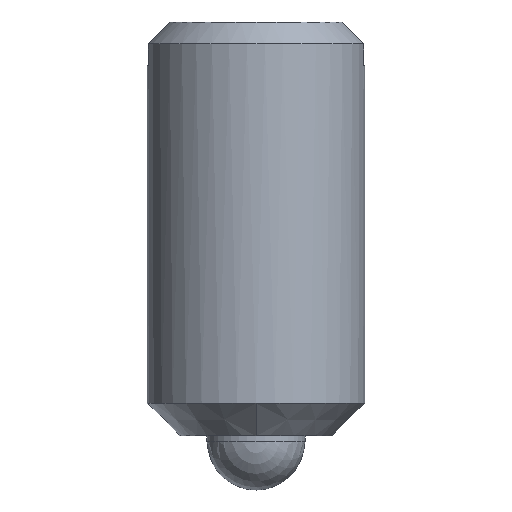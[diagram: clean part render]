
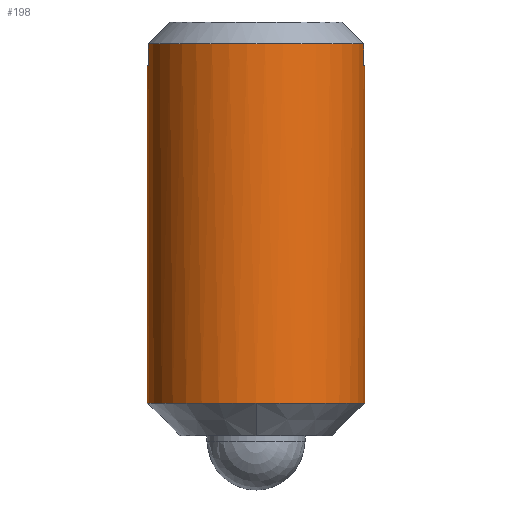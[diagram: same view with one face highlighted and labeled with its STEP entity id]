
A CAD part, front view. The second image highlights one B-rep face of the part: STEP entity #198.
In plain terms, the highlighted cylindrical face has radius 5 mm (diameter 10 mm), a partial arc.
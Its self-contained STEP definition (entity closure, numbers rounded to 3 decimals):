
#16 = EDGE_CURVE ( 'NONE', #564, #527, #353, .T. ) ;
#19 = EDGE_CURVE ( 'NONE', #507, #564, #183, .T. ) ;
#24 = DIRECTION ( 'NONE',  ( 0., 1., 0. ) ) ;
#36 = CARTESIAN_POINT ( 'NONE',  ( 5., 0., 4. ) ) ;
#46 = ORIENTED_EDGE ( 'NONE', *, *, #76, .T. ) ;
#57 = CARTESIAN_POINT ( 'NONE',  ( 0., 0., 19.5 ) ) ;
#67 = EDGE_LOOP ( 'NONE', ( #464, #106, #180, #269, #132, #304, #178, #137, #46 ) ) ;
#69 = CARTESIAN_POINT ( 'NONE',  ( -5., 0., 4. ) ) ;
#76 = EDGE_CURVE ( 'NONE', #377, #314, #362, .T. ) ;
#77 = DIRECTION ( 'NONE',  ( 0., 0., 1. ) ) ;
#92 = CARTESIAN_POINT ( 'NONE',  ( 0., 0., 20.5 ) ) ;
#98 = CARTESIAN_POINT ( 'NONE',  ( -5., 0., 19.5 ) ) ;
#106 = ORIENTED_EDGE ( 'NONE', *, *, #400, .F. ) ;
#107 = CARTESIAN_POINT ( 'NONE',  ( -4.936, -0.8, 20.5 ) ) ;
#111 = CARTESIAN_POINT ( 'NONE',  ( 0., 0., 4. ) ) ;
#127 = AXIS2_PLACEMENT_3D ( 'NONE', #473, #77, #439 ) ;
#132 = ORIENTED_EDGE ( 'NONE', *, *, #501, .F. ) ;
#137 = ORIENTED_EDGE ( 'NONE', *, *, #210, .T. ) ;
#139 = AXIS2_PLACEMENT_3D ( 'NONE', #92, #411, #568 ) ;
#150 = DIRECTION ( 'NONE',  ( 0., 0., 1. ) ) ;
#158 = CYLINDRICAL_SURFACE ( 'NONE', #466, 5. ) ;
#163 = VERTEX_POINT ( 'NONE', #98 ) ;
#168 = AXIS2_PLACEMENT_3D ( 'NONE', #57, #505, #525 ) ;
#178 = ORIENTED_EDGE ( 'NONE', *, *, #395, .T. ) ;
#180 = ORIENTED_EDGE ( 'NONE', *, *, #19, .T. ) ;
#183 = LINE ( 'NONE', #529, #321 ) ;
#191 = CIRCLE ( 'NONE', #380, 5. ) ;
#193 = DIRECTION ( 'NONE',  ( 0., 1., 0. ) ) ;
#198 = ADVANCED_FACE ( 'NONE', ( #290 ), #158, .T. ) ;
#199 = VERTEX_POINT ( 'NONE', #516 ) ;
#201 = DIRECTION ( 'NONE',  ( -1., 0., 0. ) ) ;
#210 = EDGE_CURVE ( 'NONE', #228, #377, #191, .T. ) ;
#213 = DIRECTION ( 'NONE',  ( 0., 0., -1. ) ) ;
#217 = VECTOR ( 'NONE', #352, 1000. ) ;
#222 = CARTESIAN_POINT ( 'NONE',  ( 0., -5., 4. ) ) ;
#228 = VERTEX_POINT ( 'NONE', #69 ) ;
#269 = ORIENTED_EDGE ( 'NONE', *, *, #16, .T. ) ;
#285 = CIRCLE ( 'NONE', #168, 5. ) ;
#288 = LINE ( 'NONE', #392, #310 ) ;
#290 = FACE_OUTER_BOUND ( 'NONE', #67, .T. ) ;
#293 = CARTESIAN_POINT ( 'NONE',  ( -4.936, -0.8, 19.5 ) ) ;
#298 = EDGE_CURVE ( 'NONE', #163, #566, #535, .T. ) ;
#304 = ORIENTED_EDGE ( 'NONE', *, *, #298, .F. ) ;
#310 = VECTOR ( 'NONE', #424, 1000. ) ;
#314 = VERTEX_POINT ( 'NONE', #36 ) ;
#319 = DIRECTION ( 'NONE',  ( 0., 0., 1. ) ) ;
#321 = VECTOR ( 'NONE', #319, 1000. ) ;
#333 = DIRECTION ( 'NONE',  ( 0., 0., 1. ) ) ;
#337 = CARTESIAN_POINT ( 'NONE',  ( 4.936, -0.8, 20.5 ) ) ;
#351 = CARTESIAN_POINT ( 'NONE',  ( 0., 0., -4.5 ) ) ;
#352 = DIRECTION ( 'NONE',  ( 0., 0., -1. ) ) ;
#353 = CIRCLE ( 'NONE', #139, 5. ) ;
#362 = CIRCLE ( 'NONE', #492, 5. ) ;
#375 = CARTESIAN_POINT ( 'NONE',  ( -4.936, -0.8, 19.5 ) ) ;
#377 = VERTEX_POINT ( 'NONE', #222 ) ;
#380 = AXIS2_PLACEMENT_3D ( 'NONE', #111, #520, #24 ) ;
#392 = CARTESIAN_POINT ( 'NONE',  ( 5., 0., -4.5 ) ) ;
#395 = EDGE_CURVE ( 'NONE', #163, #228, #402, .T. ) ;
#400 = EDGE_CURVE ( 'NONE', #507, #199, #285, .T. ) ;
#402 = LINE ( 'NONE', #558, #217 ) ;
#411 = DIRECTION ( 'NONE',  ( 0., 0., -1. ) ) ;
#417 = CARTESIAN_POINT ( 'NONE',  ( 0., 0., 4. ) ) ;
#419 = LINE ( 'NONE', #293, #479 ) ;
#424 = DIRECTION ( 'NONE',  ( 0., 0., -1. ) ) ;
#439 = DIRECTION ( 'NONE',  ( 1., 0., 0. ) ) ;
#464 = ORIENTED_EDGE ( 'NONE', *, *, #541, .F. ) ;
#466 = AXIS2_PLACEMENT_3D ( 'NONE', #351, #213, #201 ) ;
#473 = CARTESIAN_POINT ( 'NONE',  ( 0., 0., 19.5 ) ) ;
#479 = VECTOR ( 'NONE', #333, 1000. ) ;
#492 = AXIS2_PLACEMENT_3D ( 'NONE', #417, #150, #193 ) ;
#501 = EDGE_CURVE ( 'NONE', #566, #527, #419, .T. ) ;
#505 = DIRECTION ( 'NONE',  ( 0., 0., 1. ) ) ;
#507 = VERTEX_POINT ( 'NONE', #548 ) ;
#516 = CARTESIAN_POINT ( 'NONE',  ( 5., 0., 19.5 ) ) ;
#520 = DIRECTION ( 'NONE',  ( 0., 0., 1. ) ) ;
#525 = DIRECTION ( 'NONE',  ( 1., 0., 0. ) ) ;
#527 = VERTEX_POINT ( 'NONE', #107 ) ;
#529 = CARTESIAN_POINT ( 'NONE',  ( 4.936, -0.8, 19.5 ) ) ;
#535 = CIRCLE ( 'NONE', #127, 5. ) ;
#541 = EDGE_CURVE ( 'NONE', #199, #314, #288, .T. ) ;
#548 = CARTESIAN_POINT ( 'NONE',  ( 4.936, -0.8, 19.5 ) ) ;
#558 = CARTESIAN_POINT ( 'NONE',  ( -5., 0., -4.5 ) ) ;
#564 = VERTEX_POINT ( 'NONE', #337 ) ;
#566 = VERTEX_POINT ( 'NONE', #375 ) ;
#568 = DIRECTION ( 'NONE',  ( 0., -1., 0. ) ) ;
